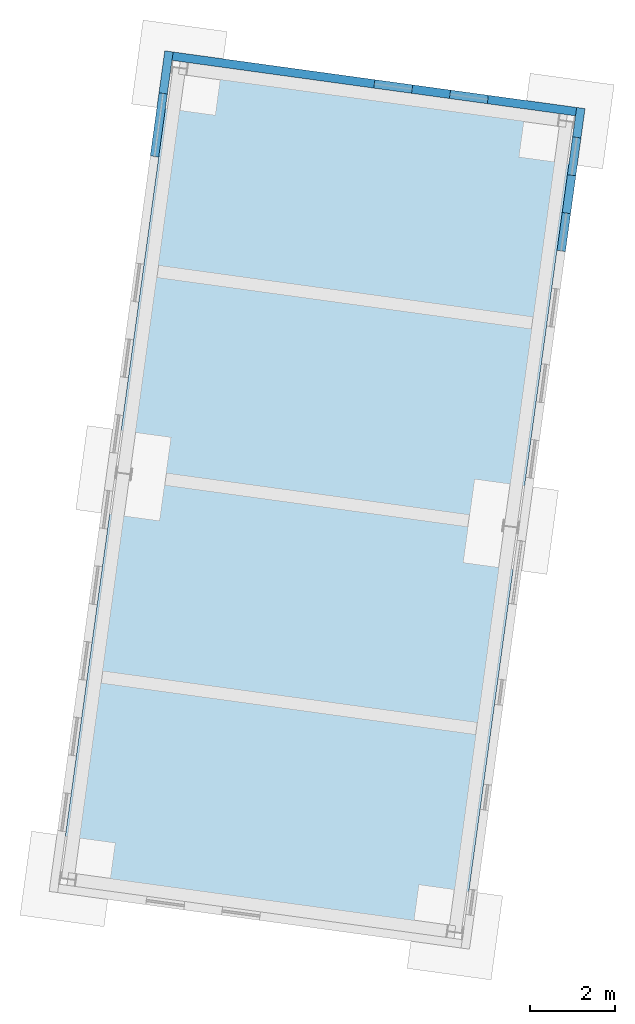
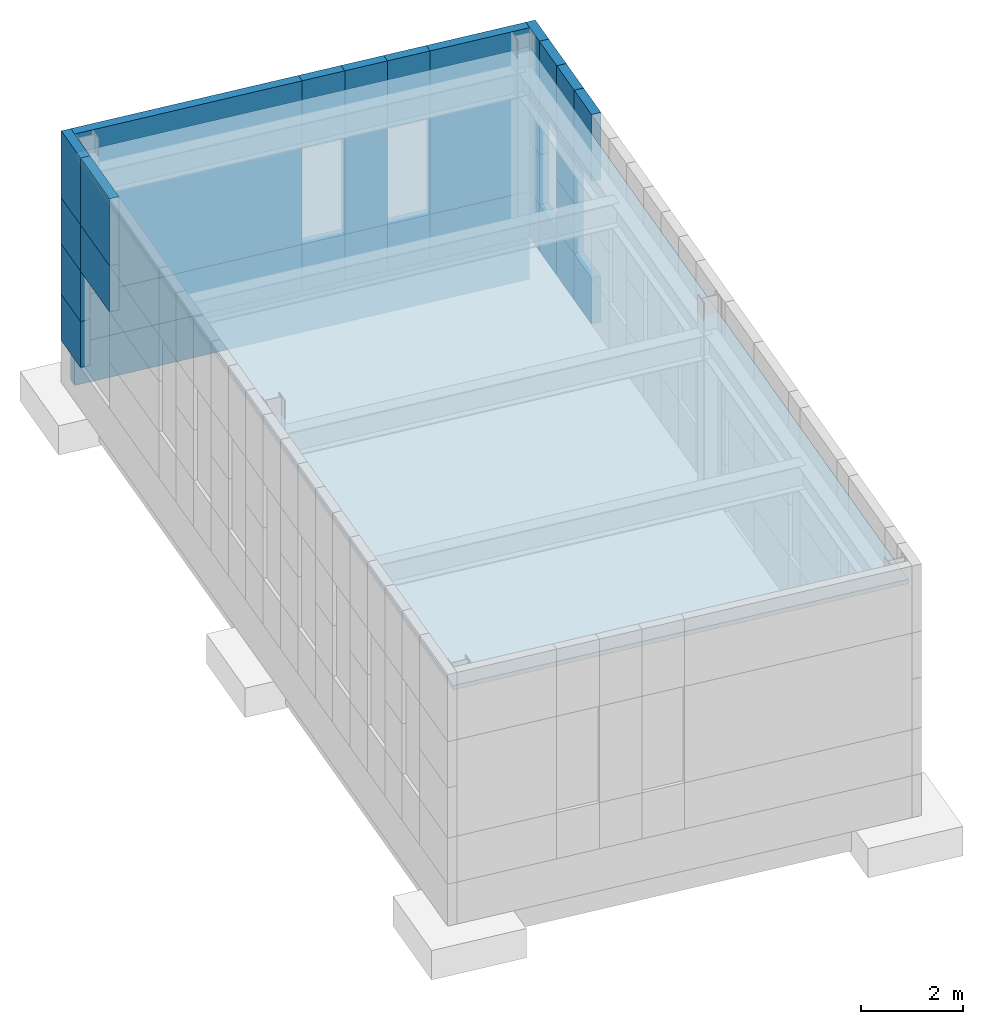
# One storey, part 4 of 5: 32 walls, 1 roof.
"""IFC4 building model written with IfcOpenShell, lengths in metres."""

from ifc_helpers import new_model, si_unit, direction, origin_with_axes, place, context, subcontext, project, spatial, triangles, material, element, save


model = new_model("IFC4")

# Units and contexts
model_context = context("Model", 3, precision=1e-05, world=origin_with_axes(), true_north=direction((0.0, 1.0)))
body_context = subcontext(model_context, "Body", "Model", "MODEL_VIEW")
ifc_project = project(units=[si_unit("AREAUNIT", "SQUARE_METRE"), si_unit("VOLUMEUNIT", "CUBIC_METRE"), si_unit("LENGTHUNIT", "METRE")], contexts=[model_context])

# Site, building, storey
site_placement = place(None, origin_with_axes())
site = spatial("IfcSite", under=ifc_project, at=site_placement, Name="Parcela industrial Jinhong")
building_placement = place(site_placement, origin_with_axes())
building = spatial("IfcBuilding", under=site, at=building_placement, Name="Edificio de oficinas")
storey_placement = place(building_placement, origin_with_axes())
storey = spatial("IfcBuildingStorey", under=building, at=storey_placement, Name="Planta baja", Elevation=0.9499999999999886)

# Walls
ifc_material_1 = material(Name="Bloque hueco de hormigón de árido ligero", Category="Material documentado")
wall_1_placement = place(storey_placement, origin_with_axes())
element("IfcWall", 1, at=wall_1_placement, inside=storey, material=ifc_material_1, Name="Edificio de oficinas · Fábrica de bloques huecos de hormigón de 200 mm · eje A · tramo 01", PredefinedType="STANDARD", context=body_context, shape_type="Tessellation", body=[
    triangles([(17.542635, 92.917828, 0.95), (17.406431, 91.927147, 0.95), (17.604567, 91.899906, 0.95), (17.740771, 92.890587, 0.95), (17.542635, 92.917828, 2.05), (17.406431, 91.927147, 2.05), (17.604567, 91.899906, 2.05), (17.740771, 92.890587, 2.05)], [[2, 1, 4], [4, 3, 2], [8, 5, 6], [6, 7, 8], [1, 2, 6], [1, 6, 5], [2, 3, 7], [2, 7, 6], [3, 4, 8], [3, 8, 7], [4, 1, 5], [4, 5, 8]], closed=True),
])
wall_2_placement = place(storey_placement, origin_with_axes())
element("IfcWall", 2, at=wall_2_placement, inside=storey, material=ifc_material_1, Name="Edificio de oficinas · Fábrica de bloques huecos de hormigón de 200 mm · eje A · tramo 02", PredefinedType="STANDARD", context=body_context, shape_type="Tessellation", body=[
    triangles([(17.542635, 92.917828, 2.05), (17.406431, 91.927147, 2.05), (17.604567, 91.899906, 2.05), (17.740771, 92.890587, 2.05), (17.542635, 92.917828, 3.25), (17.406431, 91.927147, 3.25), (17.604567, 91.899906, 3.25), (17.740771, 92.890587, 3.25)], [[2, 1, 4], [4, 3, 2], [8, 5, 6], [6, 7, 8], [1, 2, 6], [1, 6, 5], [2, 3, 7], [2, 7, 6], [3, 4, 8], [3, 8, 7], [4, 1, 5], [4, 5, 8]], closed=True),
])
wall_3_placement = place(storey_placement, origin_with_axes())
element("IfcWall", 3, at=wall_3_placement, inside=storey, material=ifc_material_1, Name="Edificio de oficinas · Fábrica de bloques huecos de hormigón de 200 mm · eje A · tramo 03", PredefinedType="STANDARD", context=body_context, shape_type="Tessellation", body=[
    triangles([(17.542635, 92.917828, 3.25), (17.406431, 91.927147, 3.25), (17.604567, 91.899906, 3.25), (17.740771, 92.890587, 3.25), (17.542635, 92.917828, 4.35), (17.406431, 91.927147, 4.35), (17.604567, 91.899906, 4.35), (17.740771, 92.890587, 4.35)], [[2, 1, 4], [4, 3, 2], [8, 5, 6], [6, 7, 8], [1, 2, 6], [1, 6, 5], [2, 3, 7], [2, 7, 6], [3, 4, 8], [3, 8, 7], [4, 1, 5], [4, 5, 8]], closed=True),
])
wall_4_placement = place(storey_placement, origin_with_axes())
element("IfcWall", 4, at=wall_4_placement, inside=storey, material=ifc_material_1, Name="Edificio de oficinas · Fábrica de bloques huecos de hormigón de 200 mm · eje A · tramo 04", PredefinedType="STANDARD", context=body_context, shape_type="Tessellation", body=[
    triangles([(17.542635, 92.917828, 4.35), (17.406431, 91.927147, 4.35), (17.604567, 91.899906, 4.35), (17.740771, 92.890587, 4.35), (17.542635, 92.917828, 5.95), (17.406431, 91.927147, 5.95), (17.604567, 91.899906, 5.95), (17.740771, 92.890587, 5.95)], [[2, 1, 4], [4, 3, 2], [8, 5, 6], [6, 7, 8], [1, 2, 6], [1, 6, 5], [2, 3, 7], [2, 7, 6], [3, 4, 8], [3, 8, 7], [4, 1, 5], [4, 5, 8]], closed=True),
])
wall_5_placement = place(storey_placement, origin_with_axes())
element("IfcWall", 5, at=wall_5_placement, inside=storey, material=ifc_material_1, Name="Edificio de oficinas · Fábrica de bloques huecos de hormigón de 200 mm · eje A · tramo 05", PredefinedType="STANDARD", context=body_context, shape_type="Tessellation", body=[
    triangles([(17.406431, 91.927147, 3.25), (17.202125, 90.441126, 3.25), (17.400261, 90.413885, 3.25), (17.604567, 91.899906, 3.25), (17.406431, 91.927147, 4.35), (17.202125, 90.441126, 4.35), (17.400261, 90.413885, 4.35), (17.604567, 91.899906, 4.35)], [[2, 1, 4], [4, 3, 2], [8, 5, 6], [6, 7, 8], [1, 2, 6], [1, 6, 5], [2, 3, 7], [2, 7, 6], [3, 4, 8], [3, 8, 7], [4, 1, 5], [4, 5, 8]], closed=True),
])
wall_6_placement = place(storey_placement, origin_with_axes())
element("IfcWall", 6, at=wall_6_placement, inside=storey, material=ifc_material_1, Name="Edificio de oficinas · Fábrica de bloques huecos de hormigón de 200 mm · eje A · tramo 06", PredefinedType="STANDARD", context=body_context, shape_type="Tessellation", body=[
    triangles([(17.406431, 91.927147, 4.35), (17.202125, 90.441126, 4.35), (17.400261, 90.413885, 4.35), (17.604567, 91.899906, 4.35), (17.406431, 91.927147, 5.95), (17.202125, 90.441126, 5.95), (17.400261, 90.413885, 5.95), (17.604567, 91.899906, 5.95)], [[2, 1, 4], [4, 3, 2], [8, 5, 6], [6, 7, 8], [1, 2, 6], [1, 6, 5], [2, 3, 7], [2, 7, 6], [3, 4, 8], [3, 8, 7], [4, 1, 5], [4, 5, 8]], closed=True),
])
wall_7_placement = place(storey_placement, origin_with_axes())
element("IfcWall", 7, at=wall_7_placement, inside=storey, material=ifc_material_1, Name="Edificio de oficinas · Fábrica de bloques huecos de hormigón de 200 mm · eje B · tramo 01", PredefinedType="STANDARD", context=body_context, shape_type="Tessellation", body=[
    triangles([(27.251307, 91.583029, 0.95), (27.155964, 90.889553, 0.95), (27.354101, 90.862312, 0.95), (27.449443, 91.555789, 0.95), (27.251307, 91.583029, 2.05), (27.155964, 90.889553, 2.05), (27.354101, 90.862312, 2.05), (27.449443, 91.555789, 2.05)], [[2, 1, 4], [4, 3, 2], [8, 5, 6], [6, 7, 8], [1, 2, 6], [1, 6, 5], [2, 3, 7], [2, 7, 6], [3, 4, 8], [3, 8, 7], [4, 1, 5], [4, 5, 8]], closed=True),
])
wall_8_placement = place(storey_placement, origin_with_axes())
element("IfcWall", 8, at=wall_8_placement, inside=storey, material=ifc_material_1, Name="Edificio de oficinas · Fábrica de bloques huecos de hormigón de 200 mm · eje B · tramo 02", PredefinedType="STANDARD", context=body_context, shape_type="Tessellation", body=[
    triangles([(27.251307, 91.583029, 2.05), (27.155964, 90.889553, 2.05), (27.354101, 90.862312, 2.05), (27.449443, 91.555789, 2.05), (27.251307, 91.583029, 3.25), (27.155964, 90.889553, 3.25), (27.354101, 90.862312, 3.25), (27.449443, 91.555789, 3.25)], [[2, 1, 4], [4, 3, 2], [8, 5, 6], [6, 7, 8], [1, 2, 6], [1, 6, 5], [2, 3, 7], [2, 7, 6], [3, 4, 8], [3, 8, 7], [4, 1, 5], [4, 5, 8]], closed=True),
])
wall_9_placement = place(storey_placement, origin_with_axes())
element("IfcWall", 9, at=wall_9_placement, inside=storey, material=ifc_material_1, Name="Edificio de oficinas · Fábrica de bloques huecos de hormigón de 200 mm · eje B · tramo 03", PredefinedType="STANDARD", context=body_context, shape_type="Tessellation", body=[
    triangles([(27.251307, 91.583029, 3.25), (27.155964, 90.889553, 3.25), (27.354101, 90.862312, 3.25), (27.449443, 91.555789, 3.25), (27.251307, 91.583029, 4.35), (27.155964, 90.889553, 4.35), (27.354101, 90.862312, 4.35), (27.449443, 91.555789, 4.35)], [[2, 1, 4], [4, 3, 2], [8, 5, 6], [6, 7, 8], [1, 2, 6], [1, 6, 5], [2, 3, 7], [2, 7, 6], [3, 4, 8], [3, 8, 7], [4, 1, 5], [4, 5, 8]], closed=True),
])
wall_10_placement = place(storey_placement, origin_with_axes())
element("IfcWall", 10, at=wall_10_placement, inside=storey, material=ifc_material_1, Name="Edificio de oficinas · Fábrica de bloques huecos de hormigón de 200 mm · eje B · tramo 04", PredefinedType="STANDARD", context=body_context, shape_type="Tessellation", body=[
    triangles([(27.251307, 91.583029, 4.35), (27.155964, 90.889553, 4.35), (27.354101, 90.862312, 4.35), (27.449443, 91.555789, 4.35), (27.251307, 91.583029, 5.95), (27.155964, 90.889553, 5.95), (27.354101, 90.862312, 5.95), (27.449443, 91.555789, 5.95)], [[2, 1, 4], [4, 3, 2], [8, 5, 6], [6, 7, 8], [1, 2, 6], [1, 6, 5], [2, 3, 7], [2, 7, 6], [3, 4, 8], [3, 8, 7], [4, 1, 5], [4, 5, 8]], closed=True),
])
wall_11_placement = place(storey_placement, origin_with_axes())
element("IfcWall", 11, at=wall_11_placement, inside=storey, material=ifc_material_1, Name="Edificio de oficinas · Fábrica de bloques huecos de hormigón de 200 mm · eje B · tramo 05", PredefinedType="STANDARD", context=body_context, shape_type="Tessellation", body=[
    triangles([(27.155964, 90.889553, 0.95), (27.033381, 89.99794, 0.95), (27.231517, 89.970699, 0.95), (27.354101, 90.862312, 0.95), (27.155964, 90.889553, 2.05), (27.033381, 89.99794, 2.05), (27.231517, 89.970699, 2.05), (27.354101, 90.862312, 2.05)], [[2, 1, 4], [4, 3, 2], [8, 5, 6], [6, 7, 8], [1, 2, 6], [1, 6, 5], [2, 3, 7], [2, 7, 6], [3, 4, 8], [3, 8, 7], [4, 1, 5], [4, 5, 8]], closed=True),
])
wall_12_placement = place(storey_placement, origin_with_axes())
element("IfcWall", 12, at=wall_12_placement, inside=storey, material=ifc_material_1, Name="Edificio de oficinas · Fábrica de bloques huecos de hormigón de 200 mm · eje B · tramo 06", PredefinedType="STANDARD", context=body_context, shape_type="Tessellation", body=[
    triangles([(27.155964, 90.889553, 4.35), (27.033381, 89.99794, 4.35), (27.231517, 89.970699, 4.35), (27.354101, 90.862312, 4.35), (27.155964, 90.889553, 5.95), (27.033381, 89.99794, 5.95), (27.231517, 89.970699, 5.95), (27.354101, 90.862312, 5.95)], [[2, 1, 4], [4, 3, 2], [8, 5, 6], [6, 7, 8], [1, 2, 6], [1, 6, 5], [2, 3, 7], [2, 7, 6], [3, 4, 8], [3, 8, 7], [4, 1, 5], [4, 5, 8]], closed=True),
])
wall_13_placement = place(storey_placement, origin_with_axes())
element("IfcWall", 13, at=wall_13_placement, inside=storey, material=ifc_material_1, Name="Edificio de oficinas · Fábrica de bloques huecos de hormigón de 200 mm · eje B · tramo 07", PredefinedType="STANDARD", context=body_context, shape_type="Tessellation", body=[
    triangles([(27.033381, 89.99794, 0.95), (26.910797, 89.106327, 0.95), (27.108934, 89.079087, 0.95), (27.231517, 89.970699, 0.95), (27.033381, 89.99794, 2.05), (26.910797, 89.106327, 2.05), (27.108934, 89.079087, 2.05), (27.231517, 89.970699, 2.05)], [[2, 1, 4], [4, 3, 2], [8, 5, 6], [6, 7, 8], [1, 2, 6], [1, 6, 5], [2, 3, 7], [2, 7, 6], [3, 4, 8], [3, 8, 7], [4, 1, 5], [4, 5, 8]], closed=True),
])
wall_14_placement = place(storey_placement, origin_with_axes())
element("IfcWall", 14, at=wall_14_placement, inside=storey, material=ifc_material_1, Name="Edificio de oficinas · Fábrica de bloques huecos de hormigón de 200 mm · eje B · tramo 08", PredefinedType="STANDARD", context=body_context, shape_type="Tessellation", body=[
    triangles([(27.033381, 89.99794, 2.05), (26.910797, 89.106327, 2.05), (27.108934, 89.079087, 2.05), (27.231517, 89.970699, 2.05), (27.033381, 89.99794, 3.25), (26.910797, 89.106327, 3.25), (27.108934, 89.079087, 3.25), (27.231517, 89.970699, 3.25)], [[2, 1, 4], [4, 3, 2], [8, 5, 6], [6, 7, 8], [1, 2, 6], [1, 6, 5], [2, 3, 7], [2, 7, 6], [3, 4, 8], [3, 8, 7], [4, 1, 5], [4, 5, 8]], closed=True),
])
wall_15_placement = place(storey_placement, origin_with_axes())
element("IfcWall", 15, at=wall_15_placement, inside=storey, material=ifc_material_1, Name="Edificio de oficinas · Fábrica de bloques huecos de hormigón de 200 mm · eje B · tramo 09", PredefinedType="STANDARD", context=body_context, shape_type="Tessellation", body=[
    triangles([(27.033381, 89.99794, 3.25), (26.910797, 89.106327, 3.25), (27.108934, 89.079087, 3.25), (27.231517, 89.970699, 3.25), (27.033381, 89.99794, 4.35), (26.910797, 89.106327, 4.35), (27.108934, 89.079087, 4.35), (27.231517, 89.970699, 4.35)], [[2, 1, 4], [4, 3, 2], [8, 5, 6], [6, 7, 8], [1, 2, 6], [1, 6, 5], [2, 3, 7], [2, 7, 6], [3, 4, 8], [3, 8, 7], [4, 1, 5], [4, 5, 8]], closed=True),
])
wall_16_placement = place(storey_placement, origin_with_axes())
element("IfcWall", 16, at=wall_16_placement, inside=storey, material=ifc_material_1, Name="Edificio de oficinas · Fábrica de bloques huecos de hormigón de 200 mm · eje B · tramo 10", PredefinedType="STANDARD", context=body_context, shape_type="Tessellation", body=[
    triangles([(27.033381, 89.99794, 4.35), (26.910797, 89.106327, 4.35), (27.108934, 89.079087, 4.35), (27.231517, 89.970699, 4.35), (27.033381, 89.99794, 5.95), (26.910797, 89.106327, 5.95), (27.108934, 89.079087, 5.95), (27.231517, 89.970699, 5.95)], [[2, 1, 4], [4, 3, 2], [8, 5, 6], [6, 7, 8], [1, 2, 6], [1, 6, 5], [2, 3, 7], [2, 7, 6], [3, 4, 8], [3, 8, 7], [4, 1, 5], [4, 5, 8]], closed=True),
])
wall_17_placement = place(storey_placement, origin_with_axes())
element("IfcWall", 17, at=wall_17_placement, inside=storey, material=ifc_material_1, Name="Edificio de oficinas · Fábrica de bloques huecos de hormigón de 200 mm · eje B · tramo 11", PredefinedType="STANDARD", context=body_context, shape_type="Tessellation", body=[
    triangles([(26.910797, 89.106327, 0.95), (26.788214, 88.214715, 0.95), (26.98635, 88.187474, 0.95), (27.108934, 89.079087, 0.95), (26.910797, 89.106327, 2.05), (26.788214, 88.214715, 2.05), (26.98635, 88.187474, 2.05), (27.108934, 89.079087, 2.05)], [[2, 1, 4], [4, 3, 2], [8, 5, 6], [6, 7, 8], [1, 2, 6], [1, 6, 5], [2, 3, 7], [2, 7, 6], [3, 4, 8], [3, 8, 7], [4, 1, 5], [4, 5, 8]], closed=True),
])
wall_18_placement = place(storey_placement, origin_with_axes())
element("IfcWall", 18, at=wall_18_placement, inside=storey, material=ifc_material_1, Name="Edificio de oficinas · Fábrica de bloques huecos de hormigón de 200 mm · eje B · tramo 12", PredefinedType="STANDARD", context=body_context, shape_type="Tessellation", body=[
    triangles([(26.910797, 89.106327, 4.35), (26.788214, 88.214715, 4.35), (26.98635, 88.187474, 4.35), (27.108934, 89.079087, 4.35), (26.910797, 89.106327, 5.95), (26.788214, 88.214715, 5.95), (26.98635, 88.187474, 5.95), (27.108934, 89.079087, 5.95)], [[2, 1, 4], [4, 3, 2], [8, 5, 6], [6, 7, 8], [1, 2, 6], [1, 6, 5], [2, 3, 7], [2, 7, 6], [3, 4, 8], [3, 8, 7], [4, 1, 5], [4, 5, 8]], closed=True),
])
wall_19_placement = place(storey_placement, origin_with_axes())
element("IfcWall", 19, at=wall_19_placement, inside=storey, material=ifc_material_1, Name="Edificio de oficinas · Fábrica de bloques huecos de hormigón de 200 mm · eje 1 · tramo 01", PredefinedType="STANDARD", context=body_context, shape_type="Tessellation", body=[
    triangles([(17.740771, 92.890587, 0.95), (17.713531, 92.692451, 0.95), (22.468798, 92.038672, 0.95), (22.496039, 92.236808, 0.95), (17.740771, 92.890587, 2.05), (17.713531, 92.692451, 2.05), (22.468798, 92.038672, 2.05), (22.496039, 92.236808, 2.05)], [[2, 1, 4], [4, 3, 2], [8, 5, 6], [6, 7, 8], [1, 2, 6], [1, 6, 5], [2, 3, 7], [2, 7, 6], [3, 4, 8], [3, 8, 7], [4, 1, 5], [4, 5, 8]], closed=True),
])
wall_20_placement = place(storey_placement, origin_with_axes())
element("IfcWall", 20, at=wall_20_placement, inside=storey, material=ifc_material_1, Name="Edificio de oficinas · Fábrica de bloques huecos de hormigón de 200 mm · eje 1 · tramo 02", PredefinedType="STANDARD", context=body_context, shape_type="Tessellation", body=[
    triangles([(17.740771, 92.890587, 2.05), (17.713531, 92.692451, 2.05), (22.468798, 92.038672, 2.05), (22.496039, 92.236808, 2.05), (17.740771, 92.890587, 4.35), (17.713531, 92.692451, 4.35), (22.468798, 92.038672, 4.35), (22.496039, 92.236808, 4.35)], [[2, 1, 4], [4, 3, 2], [8, 5, 6], [6, 7, 8], [1, 2, 6], [1, 6, 5], [2, 3, 7], [2, 7, 6], [3, 4, 8], [3, 8, 7], [4, 1, 5], [4, 5, 8]], closed=True),
])
wall_21_placement = place(storey_placement, origin_with_axes())
element("IfcWall", 21, at=wall_21_placement, inside=storey, material=ifc_material_1, Name="Edificio de oficinas · Fábrica de bloques huecos de hormigón de 200 mm · eje 1 · tramo 03", PredefinedType="STANDARD", context=body_context, shape_type="Tessellation", body=[
    triangles([(17.740771, 92.890587, 4.35), (17.713531, 92.692451, 4.35), (22.468798, 92.038672, 4.35), (22.496039, 92.236808, 4.35), (17.740771, 92.890587, 5.95), (17.713531, 92.692451, 5.95), (22.468798, 92.038672, 5.95), (22.496039, 92.236808, 5.95)], [[2, 1, 4], [4, 3, 2], [8, 5, 6], [6, 7, 8], [1, 2, 6], [1, 6, 5], [2, 3, 7], [2, 7, 6], [3, 4, 8], [3, 8, 7], [4, 1, 5], [4, 5, 8]], closed=True),
])
wall_22_placement = place(storey_placement, origin_with_axes())
element("IfcWall", 22, at=wall_22_placement, inside=storey, material=ifc_material_1, Name="Edificio de oficinas · Fábrica de bloques huecos de hormigón de 200 mm · eje 1 · tramo 04", PredefinedType="STANDARD", context=body_context, shape_type="Tessellation", body=[
    triangles([(22.496039, 92.236808, 0.95), (22.468798, 92.038672, 0.95), (23.360411, 91.916089, 0.95), (23.387652, 92.114225, 0.95), (22.496039, 92.236808, 2.05), (22.468798, 92.038672, 2.05), (23.360411, 91.916089, 2.05), (23.387652, 92.114225, 2.05)], [[2, 1, 4], [4, 3, 2], [8, 5, 6], [6, 7, 8], [1, 2, 6], [1, 6, 5], [2, 3, 7], [2, 7, 6], [3, 4, 8], [3, 8, 7], [4, 1, 5], [4, 5, 8]], closed=True),
])
wall_23_placement = place(storey_placement, origin_with_axes())
element("IfcWall", 23, at=wall_23_placement, inside=storey, material=ifc_material_1, Name="Edificio de oficinas · Fábrica de bloques huecos de hormigón de 200 mm · eje 1 · tramo 05", PredefinedType="STANDARD", context=body_context, shape_type="Tessellation", body=[
    triangles([(22.496039, 92.236808, 4.35), (22.468798, 92.038672, 4.35), (23.360411, 91.916089, 4.35), (23.387652, 92.114225, 4.35), (22.496039, 92.236808, 5.95), (22.468798, 92.038672, 5.95), (23.360411, 91.916089, 5.95), (23.387652, 92.114225, 5.95)], [[2, 1, 4], [4, 3, 2], [8, 5, 6], [6, 7, 8], [1, 2, 6], [1, 6, 5], [2, 3, 7], [2, 7, 6], [3, 4, 8], [3, 8, 7], [4, 1, 5], [4, 5, 8]], closed=True),
])
wall_24_placement = place(storey_placement, origin_with_axes())
element("IfcWall", 24, at=wall_24_placement, inside=storey, material=ifc_material_1, Name="Edificio de oficinas · Fábrica de bloques huecos de hormigón de 200 mm · eje 1 · tramo 06", PredefinedType="STANDARD", context=body_context, shape_type="Tessellation", body=[
    triangles([(23.387652, 92.114225, 0.95), (23.360411, 91.916089, 0.95), (24.252024, 91.793505, 0.95), (24.279265, 91.991641, 0.95), (23.387652, 92.114225, 2.05), (23.360411, 91.916089, 2.05), (24.252024, 91.793505, 2.05), (24.279265, 91.991641, 2.05)], [[2, 1, 4], [4, 3, 2], [8, 5, 6], [6, 7, 8], [1, 2, 6], [1, 6, 5], [2, 3, 7], [2, 7, 6], [3, 4, 8], [3, 8, 7], [4, 1, 5], [4, 5, 8]], closed=True),
])
wall_25_placement = place(storey_placement, origin_with_axes())
element("IfcWall", 25, at=wall_25_placement, inside=storey, material=ifc_material_1, Name="Edificio de oficinas · Fábrica de bloques huecos de hormigón de 200 mm · eje 1 · tramo 07", PredefinedType="STANDARD", context=body_context, shape_type="Tessellation", body=[
    triangles([(23.387652, 92.114225, 2.05), (23.360411, 91.916089, 2.05), (24.252024, 91.793505, 2.05), (24.279265, 91.991641, 2.05), (23.387652, 92.114225, 4.35), (23.360411, 91.916089, 4.35), (24.252024, 91.793505, 4.35), (24.279265, 91.991641, 4.35)], [[2, 1, 4], [4, 3, 2], [8, 5, 6], [6, 7, 8], [1, 2, 6], [1, 6, 5], [2, 3, 7], [2, 7, 6], [3, 4, 8], [3, 8, 7], [4, 1, 5], [4, 5, 8]], closed=True),
])
wall_26_placement = place(storey_placement, origin_with_axes())
element("IfcWall", 26, at=wall_26_placement, inside=storey, material=ifc_material_1, Name="Edificio de oficinas · Fábrica de bloques huecos de hormigón de 200 mm · eje 1 · tramo 08", PredefinedType="STANDARD", context=body_context, shape_type="Tessellation", body=[
    triangles([(23.387652, 92.114225, 4.35), (23.360411, 91.916089, 4.35), (24.252024, 91.793505, 4.35), (24.279265, 91.991641, 4.35), (23.387652, 92.114225, 5.95), (23.360411, 91.916089, 5.95), (24.252024, 91.793505, 5.95), (24.279265, 91.991641, 5.95)], [[2, 1, 4], [4, 3, 2], [8, 5, 6], [6, 7, 8], [1, 2, 6], [1, 6, 5], [2, 3, 7], [2, 7, 6], [3, 4, 8], [3, 8, 7], [4, 1, 5], [4, 5, 8]], closed=True),
])
wall_27_placement = place(storey_placement, origin_with_axes())
element("IfcWall", 27, at=wall_27_placement, inside=storey, material=ifc_material_1, Name="Edificio de oficinas · Fábrica de bloques huecos de hormigón de 200 mm · eje 1 · tramo 09", PredefinedType="STANDARD", context=body_context, shape_type="Tessellation", body=[
    triangles([(24.279265, 91.991641, 0.95), (24.252024, 91.793505, 0.95), (25.143637, 91.670921, 0.95), (25.170877, 91.869058, 0.95), (24.279265, 91.991641, 2.05), (24.252024, 91.793505, 2.05), (25.143637, 91.670921, 2.05), (25.170877, 91.869058, 2.05)], [[2, 1, 4], [4, 3, 2], [8, 5, 6], [6, 7, 8], [1, 2, 6], [1, 6, 5], [2, 3, 7], [2, 7, 6], [3, 4, 8], [3, 8, 7], [4, 1, 5], [4, 5, 8]], closed=True),
])
wall_28_placement = place(storey_placement, origin_with_axes())
element("IfcWall", 28, at=wall_28_placement, inside=storey, material=ifc_material_1, Name="Edificio de oficinas · Fábrica de bloques huecos de hormigón de 200 mm · eje 1 · tramo 10", PredefinedType="STANDARD", context=body_context, shape_type="Tessellation", body=[
    triangles([(24.279265, 91.991641, 4.35), (24.252024, 91.793505, 4.35), (25.143637, 91.670921, 4.35), (25.170877, 91.869058, 4.35), (24.279265, 91.991641, 5.95), (24.252024, 91.793505, 5.95), (25.143637, 91.670921, 5.95), (25.170877, 91.869058, 5.95)], [[2, 1, 4], [4, 3, 2], [8, 5, 6], [6, 7, 8], [1, 2, 6], [1, 6, 5], [2, 3, 7], [2, 7, 6], [3, 4, 8], [3, 8, 7], [4, 1, 5], [4, 5, 8]], closed=True),
])
wall_29_placement = place(storey_placement, origin_with_axes())
element("IfcWall", 29, at=wall_29_placement, inside=storey, material=ifc_material_1, Name="Edificio de oficinas · Fábrica de bloques huecos de hormigón de 200 mm · eje 1 · tramo 11", PredefinedType="STANDARD", context=body_context, shape_type="Tessellation", body=[
    triangles([(25.170877, 91.869058, 0.95), (25.143637, 91.670921, 0.95), (27.224066, 91.384893, 0.95), (27.251307, 91.583029, 0.95), (25.170877, 91.869058, 2.05), (25.143637, 91.670921, 2.05), (27.224066, 91.384893, 2.05), (27.251307, 91.583029, 2.05)], [[2, 1, 4], [4, 3, 2], [8, 5, 6], [6, 7, 8], [1, 2, 6], [1, 6, 5], [2, 3, 7], [2, 7, 6], [3, 4, 8], [3, 8, 7], [4, 1, 5], [4, 5, 8]], closed=True),
])
wall_30_placement = place(storey_placement, origin_with_axes())
element("IfcWall", 30, at=wall_30_placement, inside=storey, material=ifc_material_1, Name="Edificio de oficinas · Fábrica de bloques huecos de hormigón de 200 mm · eje 1 · tramo 12", PredefinedType="STANDARD", context=body_context, shape_type="Tessellation", body=[
    triangles([(25.170877, 91.869058, 2.05), (25.143637, 91.670921, 2.05), (27.224066, 91.384893, 2.05), (27.251307, 91.583029, 2.05), (25.170877, 91.869058, 4.35), (25.143637, 91.670921, 4.35), (27.224066, 91.384893, 4.35), (27.251307, 91.583029, 4.35)], [[2, 1, 4], [4, 3, 2], [8, 5, 6], [6, 7, 8], [1, 2, 6], [1, 6, 5], [2, 3, 7], [2, 7, 6], [3, 4, 8], [3, 8, 7], [4, 1, 5], [4, 5, 8]], closed=True),
])
wall_31_placement = place(storey_placement, origin_with_axes())
element("IfcWall", 31, at=wall_31_placement, inside=storey, material=ifc_material_1, Name="Edificio de oficinas · Fábrica de bloques huecos de hormigón de 200 mm · eje 1 · tramo 13", PredefinedType="STANDARD", context=body_context, shape_type="Tessellation", body=[
    triangles([(25.170877, 91.869058, 4.35), (25.143637, 91.670921, 4.35), (27.224066, 91.384893, 4.35), (27.251307, 91.583029, 4.35), (25.170877, 91.869058, 5.95), (25.143637, 91.670921, 5.95), (27.224066, 91.384893, 5.95), (27.251307, 91.583029, 5.95)], [[2, 1, 4], [4, 3, 2], [8, 5, 6], [6, 7, 8], [1, 2, 6], [1, 6, 5], [2, 3, 7], [2, 7, 6], [3, 4, 8], [3, 8, 7], [4, 1, 5], [4, 5, 8]], closed=True),
])
ifc_material_2 = material(Name="Hormigón armado", Category="Material documentado")
wall_32_placement = place(storey_placement, origin_with_axes())
element("IfcWall", 32, at=wall_32_placement, inside=storey, material=ifc_material_2, Name="Edificio de oficinas · muro de cimentación de 200 mm · eje 1", PredefinedType="STANDARD", context=body_context, shape_type="Tessellation", body=[
    triangles([(17.740771, 92.890587, -0.05), (17.713531, 92.692451, -0.05), (27.224066, 91.384893, -0.05), (27.251307, 91.583029, -0.05), (17.740771, 92.890587, 0.95), (17.713531, 92.692451, 0.95), (27.224066, 91.384893, 0.95), (27.251307, 91.583029, 0.95)], [[2, 1, 4], [4, 3, 2], [8, 5, 6], [6, 7, 8], [1, 2, 6], [1, 6, 5], [2, 3, 7], [2, 7, 6], [3, 4, 8], [3, 8, 7], [4, 1, 5], [4, 5, 8]], closed=True),
])

# Roof
ifc_material_3 = material(Name="Formación de pendientes, lana de roca y lámina SBS", Category="Material documentado")
roof_placement = place(storey_placement, origin_with_axes())
element("IfcRoof", 33, at=roof_placement, inside=storey, material=ifc_material_3, Name="Aislamiento e impermeabilización de cubierta de oficinas · envolvente", PredefinedType="FLAT_ROOF", context=body_context, shape_type="Tessellation", body=[
    triangles([(17.713531, 92.692451, 5.4), (15.043934, 73.275107, 5.4), (24.554469, 71.967549, 5.4), (27.224066, 91.384893, 5.4), (17.713531, 92.692451, 5.5035), (15.043934, 73.275107, 5.5035), (24.554469, 71.967549, 5.5035), (27.224066, 91.384893, 5.5035)], [[2, 1, 4], [4, 3, 2], [8, 5, 6], [6, 7, 8], [1, 2, 6], [1, 6, 5], [2, 3, 7], [2, 7, 6], [3, 4, 8], [3, 8, 7], [4, 1, 5], [4, 5, 8]], closed=True),
])

save(model, "model.ifc")
